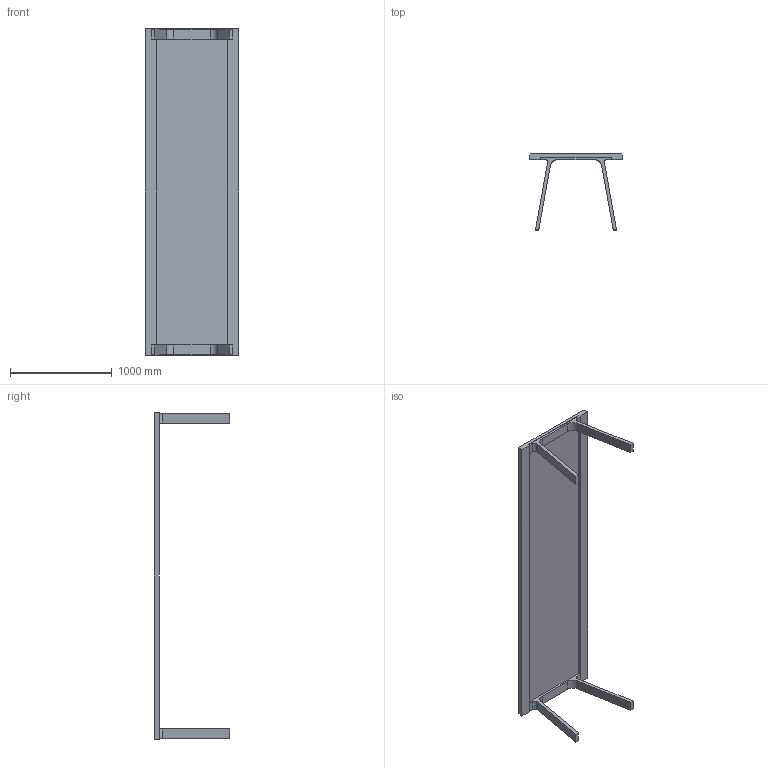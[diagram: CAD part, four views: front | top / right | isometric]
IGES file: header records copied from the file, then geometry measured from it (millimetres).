
Start section: SolidWorks IGES file using analytic representation for surfaces
Global section: file name: G:\Product Info\Doble\3D\solidworks\Doble 320x90x74-poten buiten.IGS; native system: SolidWorks 2008; preprocessor: SolidWorks 2008; author: remko; date: 080826.135442; units: millimetre
Bounding box: 917.63 x 740 x 3200 mm (x, y, z)
Surface area: 7213974.5 mm2 (no closed solid volume)
Topology: 0 solids, 0 shells, 46 faces, 356 edges, 356 vertices
Faces by surface type: bspline 36, revolution 10
